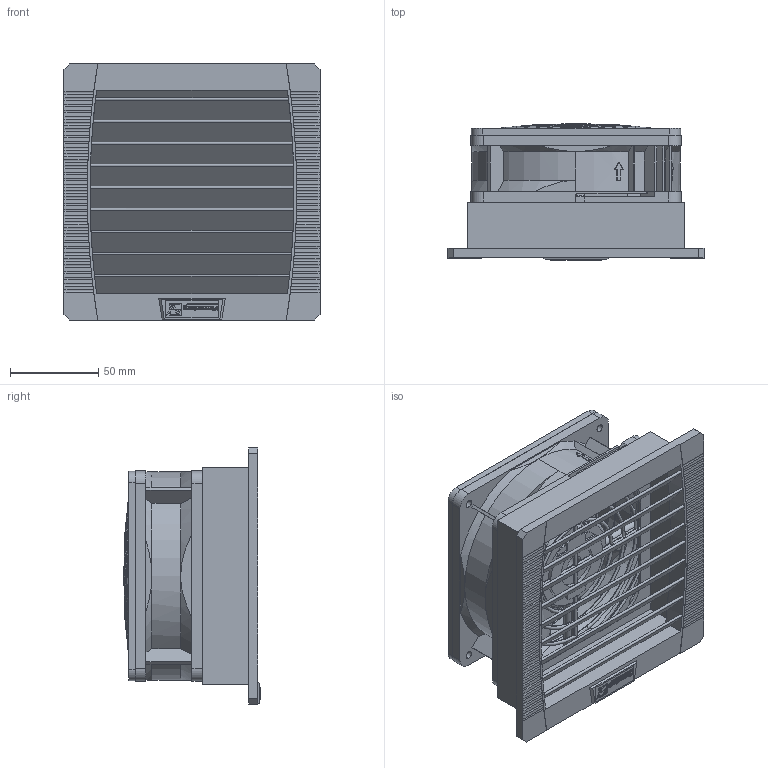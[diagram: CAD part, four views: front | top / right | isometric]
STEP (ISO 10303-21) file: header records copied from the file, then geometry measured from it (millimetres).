
FILE_DESCRIPTION (( 'STEP AP214' ), '1' );
FILE_NAME ('PF 22000_AC.STEP', '2007-05-29T15:33:48', ( 'Pfannenberg' ), ( 'Pfannenberg Group' ), 'SwSTEP 2.0', 'SolidWorks 2007', '' );
FILE_SCHEMA (( 'AUTOMOTIVE_DESIGN' ));
Length unit declared in the file: millimetre
Products named in the file (6): 30162-013_Standard; Axiallüfter Serie 4000 AC_Standard; PF 22000_AC; Berührungsschutzgitter LZ 30-8_Standard; cover PF2x_Standard; housing PF2x_Standard
Assembly tree (5 placements, depth 2):
  PF 22000_AC
    cover PF2x_Standard
    Berührungsschutzgitter LZ 30-8_Standard
    30162-013_Standard
    Axiallüfter Serie 4000 AC_Standard
    housing PF2x_Standard
Bounding box: 145 x 77.19 x 145 mm (x, y, z)
Volume: 189305.6 mm3; surface area: 228449.9 mm2
Topology: 6 solids, 6 shells, 2568 faces, 7301 edges, 4767 vertices
Faces by surface type: plane 1741, cylinder 427, bspline 292, torus 62, cone 46
Entity records: 101636 total; most frequent: CARTESIAN_POINT 37559, ORIENTED_EDGE 14578, DIRECTION 11178, EDGE_CURVE 7289, VECTOR 5118, LINE 5118, VERTEX_POINT 4767, AXIS2_PLACEMENT_3D 3030
